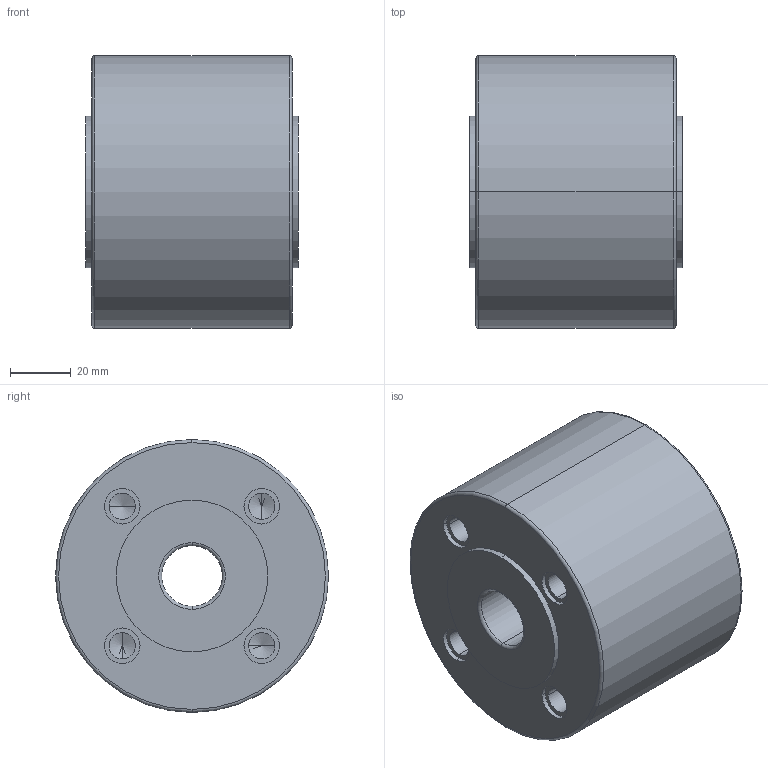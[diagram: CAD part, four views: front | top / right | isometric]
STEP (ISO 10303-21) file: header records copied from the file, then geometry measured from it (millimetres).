
FILE_DESCRIPTION (( 'STEP AP203' ), '1' );
FILE_NAME ('W8_PN06_DN020.STEP', '2012-10-31T07:07:59', ( 'luca.saino' ), ( 'Hewlett-Packard Company' ), 'SwSTEP 2.0', 'SolidWorks 2012', '' );
FILE_SCHEMA (( 'CONFIG_CONTROL_DESIGN' ));
Length unit declared in the file: millimetre
Products named in the file (1): W8_PN06_DN020
Bounding box: 70 x 90 x 90 mm (x, y, z)
Volume: 398479.8 mm3; surface area: 38517.4 mm2
Topology: 1 solids, 1 shells, 76 faces, 168 edges, 96 vertices
Faces by surface type: cylinder 40, cone 16, plane 12, torus 8
Entity records: 2085 total; most frequent: DIRECTION 402, CARTESIAN_POINT 325, ORIENTED_EDGE 304, AXIS2_PLACEMENT_3D 173, EDGE_CURVE 152, VERTEX_POINT 96, EDGE_LOOP 96, CIRCLE 96
